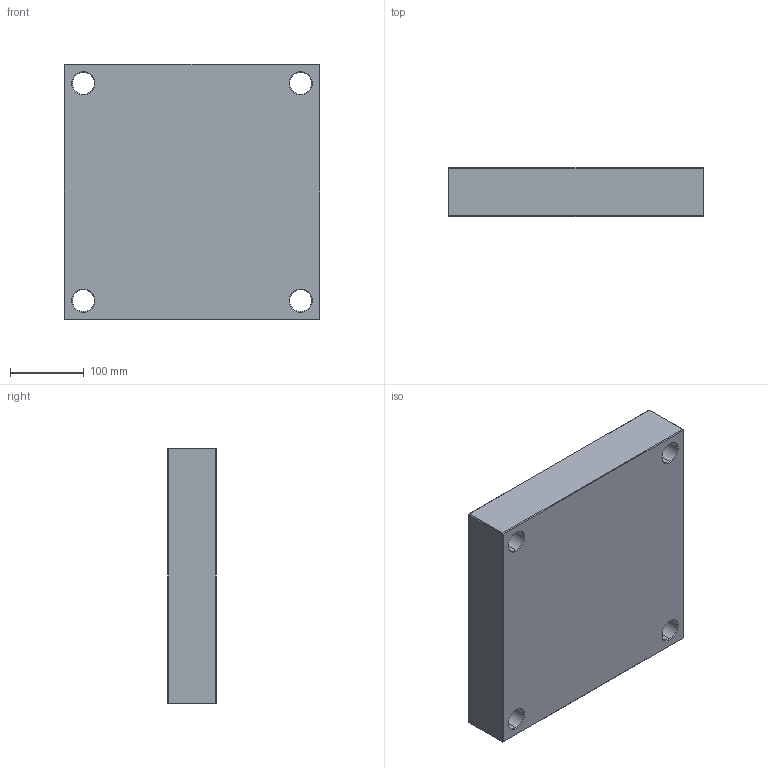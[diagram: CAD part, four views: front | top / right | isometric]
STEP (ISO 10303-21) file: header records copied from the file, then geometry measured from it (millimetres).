
FILE_DESCRIPTION (( 'STEP AP214' ), '1' );
FILE_NAME ('PCX-346x346x66.STEP', '2020-05-04T08:31:22', ( 'August' ), ( '' ), 'SwSTEP 2.0', 'SolidWorks 2018', '' );
FILE_SCHEMA (( 'AUTOMOTIVE_DESIGN' ));
Length unit declared in the file: millimetre
Products named in the file (1): PCX-346x346x66
Bounding box: 346 x 66 x 346 mm (x, y, z)
Volume: 7700625.2 mm3; surface area: 351537.2 mm2
Topology: 1 solids, 1 shells, 82 faces, 168 edges, 96 vertices
Faces by surface type: plane 34, cone 24, cylinder 24
Entity records: 2170 total; most frequent: DIRECTION 406, CARTESIAN_POINT 347, ORIENTED_EDGE 336, EDGE_CURVE 168, AXIS2_PLACEMENT_3D 155, EDGE_LOOP 98, VECTOR 96, VERTEX_POINT 96
